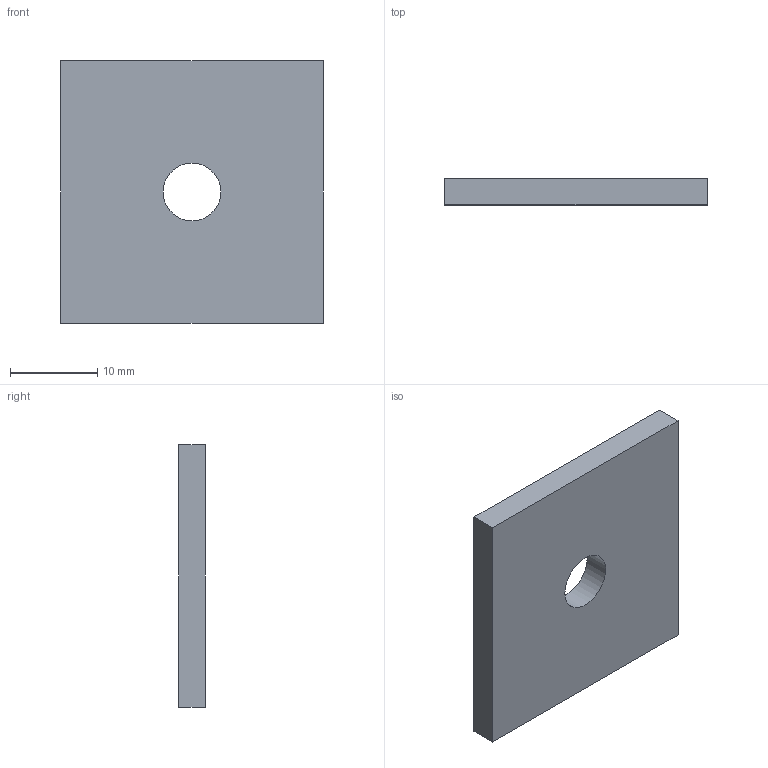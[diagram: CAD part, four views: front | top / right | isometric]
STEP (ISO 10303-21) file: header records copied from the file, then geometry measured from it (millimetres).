
FILE_DESCRIPTION(('Open CASCADE Model'),'2;1');
FILE_NAME('Open CASCADE Shape Model','2026-10-16T20:39:04',('Author'),( 'Open CASCADE'),'Open CASCADE STEP processor 7.8','Open CASCADE 7.8' ,'Unknown');
FILE_SCHEMA(('AUTOMOTIVE_DESIGN { 1 0 10303 214 1 1 1 1 }'));
Length unit declared in the file: millimetre
Products named in the file (1): Open CASCADE STEP translator 7.8 5
Bounding box: 30 x 3 x 30 mm (x, y, z)
Volume: 2597.4 mm3; surface area: 2153.8 mm2
Topology: 1 solids, 1 shells, 7 faces, 15 edges, 10 vertices
Faces by surface type: plane 6, cylinder 1
Full cylindrical faces by diameter (mm): 6.6 x1
Entity records: 406 total; most frequent: CARTESIAN_POINT 75, DIRECTION 61, LINE 41, VECTOR 41, ORIENTED_EDGE 30, PCURVE 30, DEFINITIONAL_REPRESENTATION 30, EDGE_CURVE 15
